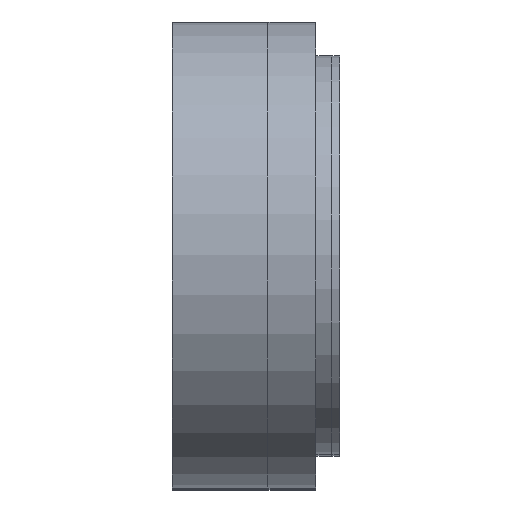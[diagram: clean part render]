
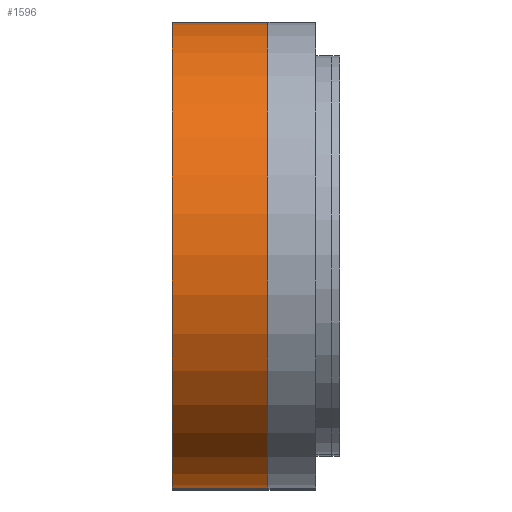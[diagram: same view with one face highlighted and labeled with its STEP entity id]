
A CAD part, top view. The second image highlights one B-rep face of the part: STEP entity #1596.
In plain terms, the highlighted cylindrical face has radius 14.6 mm (diameter 29.2 mm), a partial arc.
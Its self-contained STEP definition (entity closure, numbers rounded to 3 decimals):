
#241 = VERTEX_POINT('',#242);
#242 = CARTESIAN_POINT('',(46.25,17.4,32.5));
#256 = CYLINDRICAL_SURFACE('',#257,14.6);
#257 = AXIS2_PLACEMENT_3D('',#258,#259,#260);
#258 = CARTESIAN_POINT('',(49.25,32.,32.5));
#259 = DIRECTION('',(-1.,0.,0.));
#260 = DIRECTION('',(0.,1.,0.));
#284 = PLANE('',#285);
#285 = AXIS2_PLACEMENT_3D('',#286,#287,#288);
#286 = CARTESIAN_POINT('',(40.25,17.4,32.5));
#287 = DIRECTION('',(0.,1.,0.));
#288 = DIRECTION('',(0.,0.,1.));
#582 = VERTEX_POINT('',#583);
#583 = CARTESIAN_POINT('',(46.25,46.6,32.5));
#620 = PLANE('',#621);
#621 = AXIS2_PLACEMENT_3D('',#622,#623,#624);
#622 = CARTESIAN_POINT('',(40.25,46.6,32.5));
#623 = DIRECTION('',(0.,1.,0.));
#624 = DIRECTION('',(0.,0.,1.));
#681 = EDGE_CURVE('',#582,#241,#682,.T.);
#682 = SURFACE_CURVE('',#683,(#688,#695),.PCURVE_S1.);
#683 = CIRCLE('',#684,14.6);
#684 = AXIS2_PLACEMENT_3D('',#685,#686,#687);
#685 = CARTESIAN_POINT('',(46.25,32.,32.5));
#686 = DIRECTION('',(-1.,0.,0.));
#687 = DIRECTION('',(0.,1.,0.));
#688 = PCURVE('',#256,#689);
#689 = DEFINITIONAL_REPRESENTATION('',(#690),#694);
#690 = LINE('',#691,#692);
#691 = CARTESIAN_POINT('',(0.,3.));
#692 = VECTOR('',#693,1.);
#693 = DIRECTION('',(1.,0.));
#694 = ( GEOMETRIC_REPRESENTATION_CONTEXT(2) 
PARAMETRIC_REPRESENTATION_CONTEXT() REPRESENTATION_CONTEXT('2D SPACE',''
  ) );
#695 = PCURVE('',#696,#701);
#696 = CYLINDRICAL_SURFACE('',#697,14.6);
#697 = AXIS2_PLACEMENT_3D('',#698,#699,#700);
#698 = CARTESIAN_POINT('',(46.25,32.,32.5));
#699 = DIRECTION('',(-1.,0.,0.));
#700 = DIRECTION('',(0.,1.,0.));
#701 = DEFINITIONAL_REPRESENTATION('',(#702),#706);
#702 = LINE('',#703,#704);
#703 = CARTESIAN_POINT('',(0.,0.));
#704 = VECTOR('',#705,1.);
#705 = DIRECTION('',(1.,0.));
#706 = ( GEOMETRIC_REPRESENTATION_CONTEXT(2) 
PARAMETRIC_REPRESENTATION_CONTEXT() REPRESENTATION_CONTEXT('2D SPACE',''
  ) );
#715 = EDGE_CURVE('',#716,#241,#718,.T.);
#716 = VERTEX_POINT('',#717);
#717 = CARTESIAN_POINT('',(40.25,17.4,32.5));
#718 = SURFACE_CURVE('',#719,(#723,#730),.PCURVE_S1.);
#719 = LINE('',#720,#721);
#720 = CARTESIAN_POINT('',(40.25,17.4,32.5));
#721 = VECTOR('',#722,1.);
#722 = DIRECTION('',(1.,0.,0.));
#723 = PCURVE('',#284,#724);
#724 = DEFINITIONAL_REPRESENTATION('',(#725),#729);
#725 = LINE('',#726,#727);
#726 = CARTESIAN_POINT('',(0.,0.));
#727 = VECTOR('',#728,1.);
#728 = DIRECTION('',(0.,1.));
#729 = ( GEOMETRIC_REPRESENTATION_CONTEXT(2) 
PARAMETRIC_REPRESENTATION_CONTEXT() REPRESENTATION_CONTEXT('2D SPACE',''
  ) );
#730 = PCURVE('',#696,#731);
#731 = DEFINITIONAL_REPRESENTATION('',(#732),#736);
#732 = LINE('',#733,#734);
#733 = CARTESIAN_POINT('',(3.142,6.));
#734 = VECTOR('',#735,1.);
#735 = DIRECTION('',(0.,-1.));
#736 = ( GEOMETRIC_REPRESENTATION_CONTEXT(2) 
PARAMETRIC_REPRESENTATION_CONTEXT() REPRESENTATION_CONTEXT('2D SPACE',''
  ) );
#1485 = EDGE_CURVE('',#1486,#582,#1488,.T.);
#1486 = VERTEX_POINT('',#1487);
#1487 = CARTESIAN_POINT('',(40.25,46.6,32.5));
#1488 = SURFACE_CURVE('',#1489,(#1493,#1500),.PCURVE_S1.);
#1489 = LINE('',#1490,#1491);
#1490 = CARTESIAN_POINT('',(40.25,46.6,32.5));
#1491 = VECTOR('',#1492,1.);
#1492 = DIRECTION('',(1.,0.,0.));
#1493 = PCURVE('',#620,#1494);
#1494 = DEFINITIONAL_REPRESENTATION('',(#1495),#1499);
#1495 = LINE('',#1496,#1497);
#1496 = CARTESIAN_POINT('',(0.,0.));
#1497 = VECTOR('',#1498,1.);
#1498 = DIRECTION('',(0.,1.));
#1499 = ( GEOMETRIC_REPRESENTATION_CONTEXT(2) 
PARAMETRIC_REPRESENTATION_CONTEXT() REPRESENTATION_CONTEXT('2D SPACE',''
  ) );
#1500 = PCURVE('',#696,#1501);
#1501 = DEFINITIONAL_REPRESENTATION('',(#1502),#1506);
#1502 = LINE('',#1503,#1504);
#1503 = CARTESIAN_POINT('',(0.,6.));
#1504 = VECTOR('',#1505,1.);
#1505 = DIRECTION('',(0.,-1.));
#1506 = ( GEOMETRIC_REPRESENTATION_CONTEXT(2) 
PARAMETRIC_REPRESENTATION_CONTEXT() REPRESENTATION_CONTEXT('2D SPACE',''
  ) );
#1596 = ADVANCED_FACE('',(#1597),#696,.T.);
#1597 = FACE_BOUND('',#1598,.T.);
#1598 = EDGE_LOOP('',(#1599,#1626,#1627,#1628));
#1599 = ORIENTED_EDGE('',*,*,#1600,.F.);
#1600 = EDGE_CURVE('',#1486,#716,#1601,.T.);
#1601 = SURFACE_CURVE('',#1602,(#1607,#1614),.PCURVE_S1.);
#1602 = CIRCLE('',#1603,14.6);
#1603 = AXIS2_PLACEMENT_3D('',#1604,#1605,#1606);
#1604 = CARTESIAN_POINT('',(40.25,32.,32.5));
#1605 = DIRECTION('',(-1.,0.,0.));
#1606 = DIRECTION('',(0.,1.,0.));
#1607 = PCURVE('',#696,#1608);
#1608 = DEFINITIONAL_REPRESENTATION('',(#1609),#1613);
#1609 = LINE('',#1610,#1611);
#1610 = CARTESIAN_POINT('',(0.,6.));
#1611 = VECTOR('',#1612,1.);
#1612 = DIRECTION('',(1.,0.));
#1613 = ( GEOMETRIC_REPRESENTATION_CONTEXT(2) 
PARAMETRIC_REPRESENTATION_CONTEXT() REPRESENTATION_CONTEXT('2D SPACE',''
  ) );
#1614 = PCURVE('',#1615,#1620);
#1615 = PLANE('',#1616);
#1616 = AXIS2_PLACEMENT_3D('',#1617,#1618,#1619);
#1617 = CARTESIAN_POINT('',(40.25,32.,32.5));
#1618 = DIRECTION('',(-1.,0.,0.));
#1619 = DIRECTION('',(0.,1.,0.));
#1620 = DEFINITIONAL_REPRESENTATION('',(#1621),#1625);
#1621 = CIRCLE('',#1622,14.6);
#1622 = AXIS2_PLACEMENT_2D('',#1623,#1624);
#1623 = CARTESIAN_POINT('',(0.,0.));
#1624 = DIRECTION('',(1.,0.));
#1625 = ( GEOMETRIC_REPRESENTATION_CONTEXT(2) 
PARAMETRIC_REPRESENTATION_CONTEXT() REPRESENTATION_CONTEXT('2D SPACE',''
  ) );
#1626 = ORIENTED_EDGE('',*,*,#1485,.T.);
#1627 = ORIENTED_EDGE('',*,*,#681,.T.);
#1628 = ORIENTED_EDGE('',*,*,#715,.F.);
